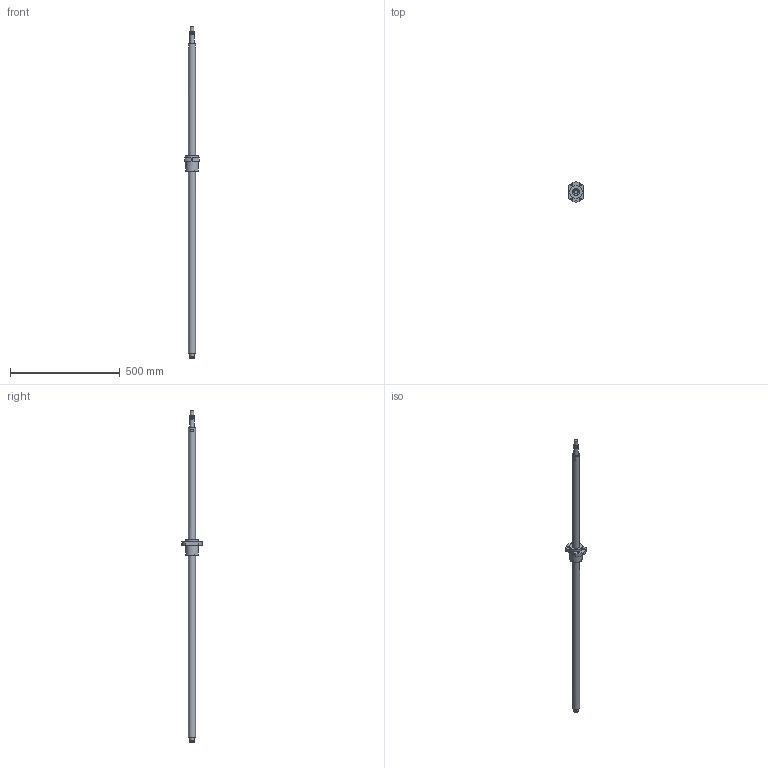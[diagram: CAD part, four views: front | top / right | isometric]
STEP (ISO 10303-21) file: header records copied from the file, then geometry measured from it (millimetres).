
FILE_DESCRIPTION(/* description */ (''),/* implementation_level */ '2;1');
FILE_NAME(/* name */ 'BSG468_asm1.stp',/* time_stamp */ '2017-01-14T09:26:43+08:00',/* author */ (''),/* organization */ (''),/* preprocessor_version */ 'ST-DEVELOPER v15',/* originating_system */ 'SIEMENS PLM Software NX 8.5',/* authorisation */ '');
FILE_SCHEMA (('AUTOMOTIVE_DESIGN { 1 0 10303 214 3 1 1 1 }'));
Length unit declared in the file: millimetre
Products named in the file (3): 01; BSG468; BSG468_asm1
Assembly tree (2 placements, depth 2):
  BSG468_asm1
    BSG468
    01
Bounding box: 68 x 92 x 1510 mm (x, y, z)
Volume: 1331380.3 mm3; surface area: 183088.8 mm2
Topology: 2 solids, 2 shells, 72 faces, 185 edges, 126 vertices
Faces by surface type: plane 41, cylinder 29, bspline 2
Full cylindrical faces by diameter (mm): 4.5 x4, 5 x1, 6 x1, 9 x4, 17 x1, 19 x1, 20 x8, 32 x2, 58 x2
Entity records: 3391 total; most frequent: CARTESIAN_POINT 1865, DIRECTION 310, ORIENTED_EDGE 260, EDGE_CURVE 130, AXIS2_PLACEMENT_3D 125, EDGE_LOOP 107, VERTEX_POINT 97, FACE_BOUND 71
